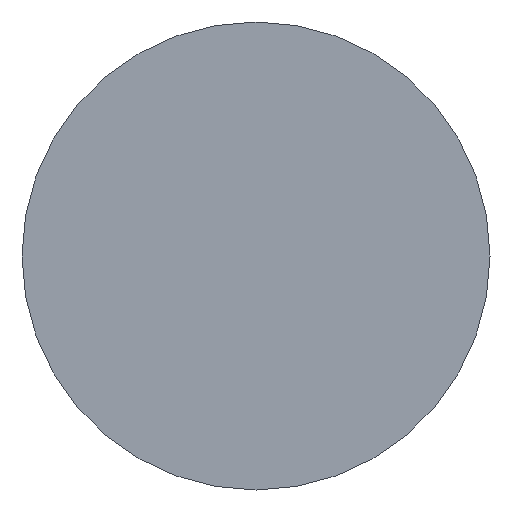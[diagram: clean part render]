
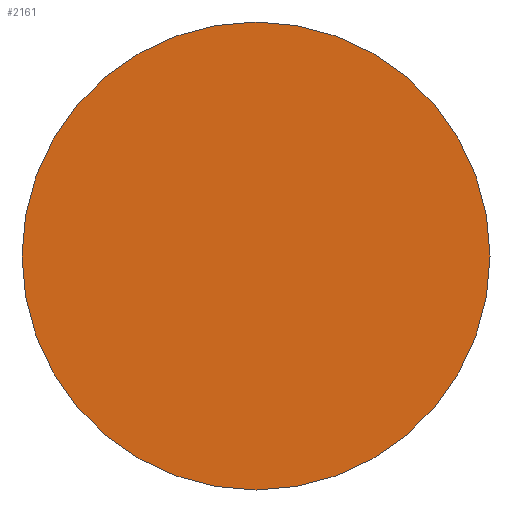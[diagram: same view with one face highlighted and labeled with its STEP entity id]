
A CAD part, front view. The second image highlights one B-rep face of the part: STEP entity #2161.
In plain terms, the highlighted planar face has unit normal (0, -1, 0).
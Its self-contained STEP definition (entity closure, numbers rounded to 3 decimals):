
#149 = DIRECTION ( 'NONE',  ( 0., -1., 0. ) ) ;
#284 = DIRECTION ( 'NONE',  ( 0., 0., -1. ) ) ;
#430 = DIRECTION ( 'NONE',  ( 0., -1., 0. ) ) ;
#475 = CARTESIAN_POINT ( 'NONE',  ( 0., -8.427, 0. ) ) ;
#641 = DIRECTION ( 'NONE',  ( 0., 0., -1. ) ) ;
#762 = AXIS2_PLACEMENT_3D ( 'NONE', #475, #1641, #641 ) ;
#789 = EDGE_CURVE ( 'NONE', #1532, #1279, #795, .T. ) ;
#795 = CIRCLE ( 'NONE', #762, 18.5 ) ;
#864 = AXIS2_PLACEMENT_3D ( 'NONE', #1241, #430, #284 ) ;
#894 = FACE_OUTER_BOUND ( 'NONE', #1255, .T. ) ;
#1082 = EDGE_CURVE ( 'NONE', #1279, #1532, #1971, .T. ) ;
#1241 = CARTESIAN_POINT ( 'NONE',  ( 0., -8.427, 0. ) ) ;
#1255 = EDGE_LOOP ( 'NONE', ( #1801, #1610 ) ) ;
#1279 = VERTEX_POINT ( 'NONE', #1854 ) ;
#1287 = PLANE ( 'NONE',  #864 ) ;
#1325 = CARTESIAN_POINT ( 'NONE',  ( 0., -8.427, 18.5 ) ) ;
#1532 = VERTEX_POINT ( 'NONE', #1325 ) ;
#1610 = ORIENTED_EDGE ( 'NONE', *, *, #1082, .T. ) ;
#1641 = DIRECTION ( 'NONE',  ( 0., -1., 0. ) ) ;
#1721 = AXIS2_PLACEMENT_3D ( 'NONE', #2151, #149, #1968 ) ;
#1801 = ORIENTED_EDGE ( 'NONE', *, *, #789, .T. ) ;
#1854 = CARTESIAN_POINT ( 'NONE',  ( 0., -8.427, -18.5 ) ) ;
#1968 = DIRECTION ( 'NONE',  ( 0., 0., -1. ) ) ;
#1971 = CIRCLE ( 'NONE', #1721, 18.5 ) ;
#2151 = CARTESIAN_POINT ( 'NONE',  ( 0., -8.427, 0. ) ) ;
#2161 = ADVANCED_FACE ( 'NONE', ( #894 ), #1287, .T. ) ;
